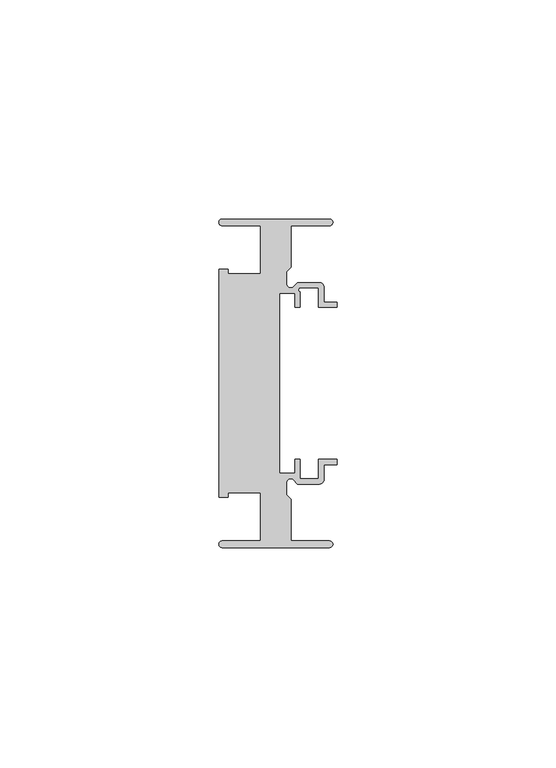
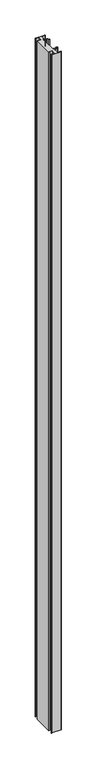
"""IFC4 building model written with IfcOpenShell, lengths in millimetres: member geometry, Прямоугольный импост : 7-AMG-2-Профиль 26Х75 Верх П."""

from ifc_helpers import new_model, si_unit, point, frame, frame_2d, origin, place, context, project, spatial, polyline, circle_curve, trimmed, segment, composite_curve, outline, extrude, source, transform, mapped, element, save


def member_028ab7fa(model_context):
    return source(origin(), model_context, "Body", "SweptSolid", [
        extrude(outline(composite_curve([segment(polyline([(-1.7, -37.5), (-26.25, -37.5)]), True, "CONTINUOUS"), segment(trimmed(circle_curve(frame_2d((-26.25, -36.75)), 0.75), [point((-26.25, -37.5))], [point((-26.25, -36.0))], False, "CARTESIAN"), True, "CONTINUOUS"), segment(polyline([(-26.25, -36.0), (-17.5, -36.0), (-17.5, -25.0), (-24.9359877, -25.0), (-24.9359877, -26.0), (-27.0, -26.0), (-27.0, 26.0), (-24.9359877, 26.0), (-24.9359877, 25.0), (-17.5, 25.0), (-17.5, 36.0), (-26.25, 36.0)]), True, "CONTINUOUS"), segment(trimmed(circle_curve(frame_2d((-26.25, 36.75)), 0.75), [point((-26.25, 36.0))], [point((-26.25, 37.5))], False, "CARTESIAN"), True, "CONTINUOUS"), segment(polyline([(-26.25, 37.5), (-1.7, 37.5)]), True, "CONTINUOUS"), segment(trimmed(circle_curve(frame_2d((-1.7, 36.75)), 0.75), [point((-1.7, 37.5))], [point((-1.7, 36.0))], False, "CARTESIAN"), True, "CONTINUOUS"), segment(polyline([(-1.7, 36.0), (-10.5, 36.0), (-10.5, 26.5029437), (-11.5, 25.5029437), (-11.5, 22.6727922)]), True, "CONTINUOUS"), segment(trimmed(circle_curve(frame_2d((-10.6, 22.6727922)), 0.9), [point((-11.5, 22.6727922))], [point((-9.9636039, 22.0363961))], True, "CARTESIAN"), True, "CONTINUOUS"), segment(polyline([(-9.9636039, 22.0363961), (-9.0, 23.0), (-4.0, 23.0)]), True, "CONTINUOUS"), segment(trimmed(circle_curve(frame_2d((-4.0, 22.0)), 1.0), [point((-4.0, 23.0))], [point((-3.0, 22.0))], False, "CARTESIAN"), True, "CONTINUOUS"), segment(polyline([(-3.0, 22.0), (-3.0, 18.55), (0.0, 18.55), (0.0, 17.35), (-4.2, 17.35), (-4.2, 21.8), (-8.5029437, 21.8)]), True, "CONTINUOUS"), segment(trimmed(circle_curve(frame_2d((-8.3343131, 21.3314262)), 0.4979937), [point((-8.5029437, 21.8))], [point((-8.45, 20.8470563))], True, "CARTESIAN"), True, "CONTINUOUS"), segment(polyline([(-8.45, 20.8470563), (-8.45, 17.35), (-9.65, 17.35), (-9.65, 20.55), (-13.15, 20.55), (-13.15, -20.55), (-9.65, -20.55), (-9.65, -17.35), (-8.45, -17.35), (-8.45, -21.8), (-4.2, -21.8), (-4.2, -17.35), (0.0, -17.35), (0.0, -18.55), (-3.0, -18.55), (-3.0, -22.0)]), True, "CONTINUOUS"), segment(trimmed(circle_curve(frame_2d((-4.0, -22.0)), 1.0), [point((-3.0, -22.0))], [point((-4.0, -23.0))], False, "CARTESIAN"), True, "CONTINUOUS"), segment(polyline([(-4.0, -23.0), (-9.0, -23.0), (-9.9636039, -22.0363961)]), True, "CONTINUOUS"), segment(trimmed(circle_curve(frame_2d((-10.6, -22.6727922)), 0.9), [point((-9.9636039, -22.0363961))], [point((-11.5, -22.6727922))], True, "CARTESIAN"), True, "CONTINUOUS"), segment(polyline([(-11.5, -22.6727922), (-11.5, -25.5029437), (-10.5, -26.5029437), (-10.5, -36.0), (-1.7, -36.0)]), True, "CONTINUOUS"), segment(trimmed(circle_curve(frame_2d((-1.7, -36.75)), 0.75), [point((-1.7, -36.0))], [point((-1.7, -37.5))], False, "CARTESIAN"), True, "CONTINUOUS")], self_intersect=False)), frame((0.0, 0.0, -1875.0), z_axis=(0.0, 0.0, 1.0), x_axis=(1.0, 0.0, 0.0)), (0.0, 0.0, 1.0), 1875.0),
    ])


if __name__ == "__main__":
    model = new_model("IFC4")
    model_context = context("Model", 3, world=origin())
    ifc_project = project(units=[si_unit("LENGTHUNIT", "METRE", prefix="MILLI")], contexts=[model_context])
    site = spatial("IfcSite", under=ifc_project)
    building = spatial("IfcBuilding", under=site)
    placement = place(None, origin())
    member_shape = member_028ab7fa(model_context)
    element("IfcMember", 1, ObjectType="Прямоугольный импост : 7-AMG-2-Профиль 26Х75 Верх П", at=placement, inside=building, context=model_context, shape_type="MappedRepresentation", body=[
        mapped(member_shape, transform((0.0, 0.0, 0.0), x_axis=(1.0, 0.0, 0.0), y_axis=(0.0, 1.0, 0.0), z_axis=(0.0, 0.0, 1.0))),
    ])
    save(model, "model.ifc")
